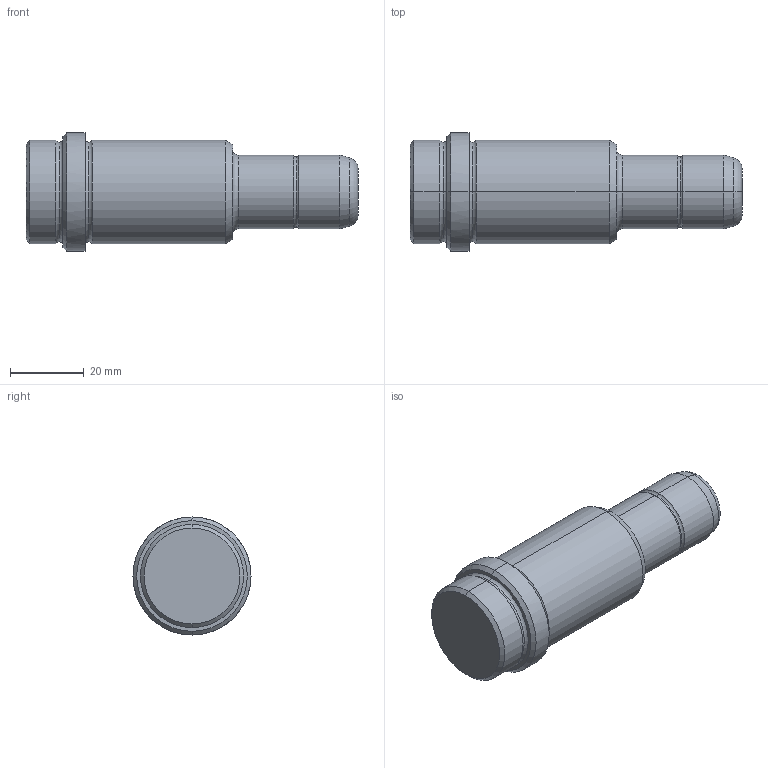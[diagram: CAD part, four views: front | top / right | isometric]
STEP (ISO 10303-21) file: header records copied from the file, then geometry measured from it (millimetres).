
FILE_DESCRIPTION(('CATIA V5 STEP Exchange'),'2;1');
FILE_NAME('C:\Users\Utente\Desktop\IO LAVORO\3D X SITO CF\X SITO\PLASTICA\357\357-20X56X90.stp','2021-08-14T09:20:59+00:00',('none'),('none'),'CATIA Version 5 Release 20 GA (IN-10)','CATIA V5 STEP AP203','none');
FILE_SCHEMA(('CONFIG_CONTROL_DESIGN'));
Length unit declared in the file: millimetre
Products named in the file (1): 357-20X56X90
Bounding box: 90 x 32 x 32 mm (x, y, z)
Volume: 45724.8 mm3; surface area: 8456.8 mm2
Topology: 1 solids, 1 shells, 39 faces, 112 edges, 78 vertices
Faces by surface type: torus 16, cylinder 10, cone 8, plane 5
Entity records: 1404 total; most frequent: CARTESIAN_POINT 342, ORIENTED_EDGE 224, DIRECTION 182, AXIS2_PLACEMENT_3D 126, EDGE_CURVE 112, CIRCLE 86, VERTEX_POINT 78, EDGE_LOOP 42
